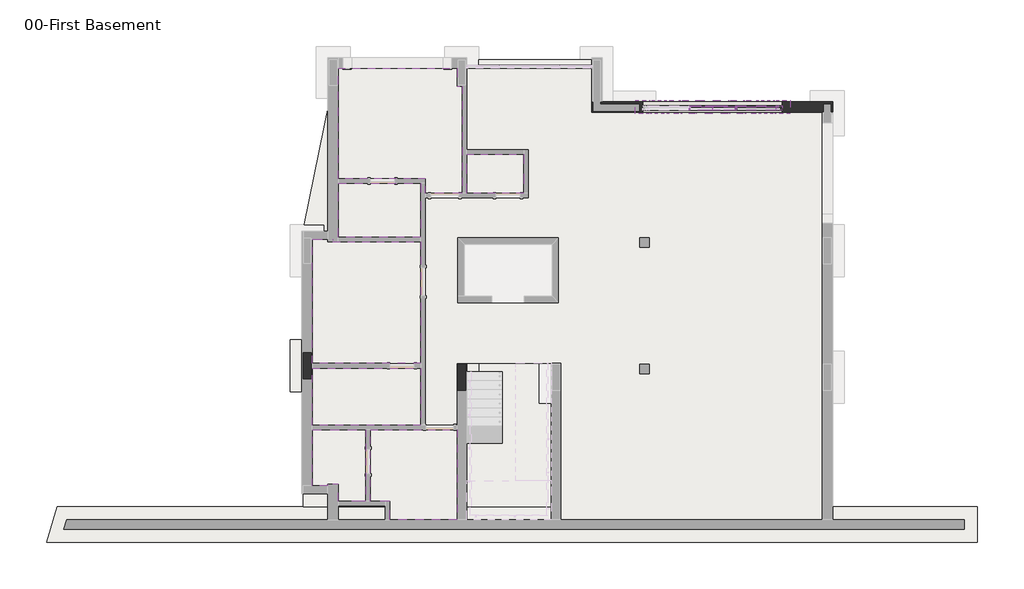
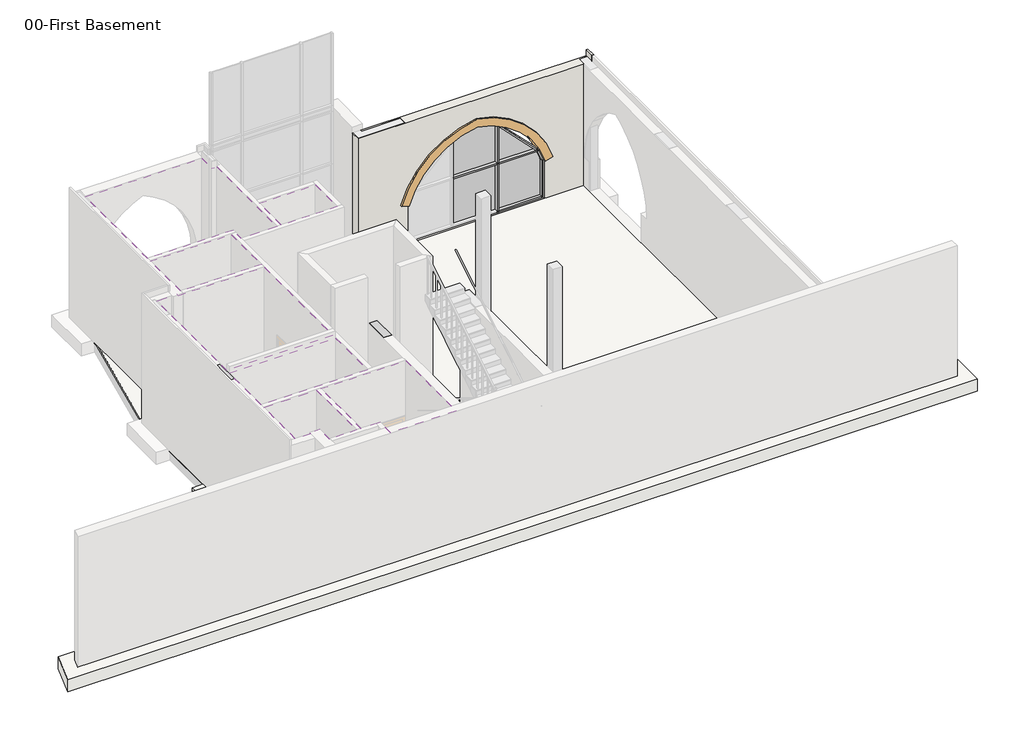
# One storey, part 3 of 5: 11 slabs, 10 members, 7 coverings, 4 plates, 3 beams, 2 columns, 1 door, 1 footing, 1 wall.
"""IFC4 building model written with IfcOpenShell, lengths in millimetres."""

from ifc_helpers import new_model, si_unit, frame, origin, place, context, project, spatial, polyline, circle_curve, outline, extrude, faceted_brep, transform, mapped, element, save
from ifc_brep_helpers import plane_surface, revolved_surface, advanced_brep
from components import etc_door_opening_with_arch_etc_door_opening_with_arch_b524fb75, rectangular_mullion_50_x_150mm_8dc91bbf, rectangular_mullion_50_x_150mm_4ea3cc32, rectangular_mullion_50_x_150mm_096bd82a, rectangular_mullion_50_x_150mm_1d3abd5c, rectangular_mullion_50_x_150mm_a7b7ccc9, rectangular_mullion_50_x_150mm_107027ef, rectangular_mullion_50_x_150mm_c8c9eab7, rectangular_mullion_50_x_150mm_af558dda, rectangular_mullion_50_x_150mm_6aa79e23, rectangular_mullion_50_x_150mm_418b3fc4, system_panel_glazed_629092f2, system_panel_glazed_8a8beb79, system_panel_glazed_7a5e4d7d, system_panel_glazed_f3bbe348

model = new_model("IFC4")

# Units and contexts
model_context = context("Model", 3, world=origin())
ifc_project = project(units=[si_unit("LENGTHUNIT", "METRE", prefix="MILLI")], contexts=[model_context])

# Site, building, storey
site = spatial("IfcSite", under=ifc_project)
building = spatial("IfcBuilding", under=site)
storey = spatial("IfcBuildingStorey", under=building, Name="00-First Basement", Elevation=-4350.0)

# Beams
placement = place(None, origin())
element("IfcBeam", 1, ObjectType="M_Concrete-Rectangular Beam : 200 x 400mm", at=placement, inside=storey, context=model_context, shape_type="SweptSolid", body=[
    extrude(outline(polyline([(-14055.5689025, -4718.0271687), (-13855.5689025, -4718.0271687), (-13855.5689025, -8262.9805769), (-14055.5689025, -8262.9805769), (-14055.5689025, -4718.0271687)])), frame((0.0, 0.0, -4750.0), z_axis=(0.0, 0.0, 1.0), x_axis=(1.0, 0.0, 0.0)), (0.0, 0.0, 1.0), 300.0),
])
element("IfcBeam", 2, ObjectType="M_Concrete-Rectangular Beam : 200 x 400mm", at=placement, inside=storey, context=model_context, shape_type="SweptSolid", body=[
    extrude(outline(polyline([(-9290.0580776, -5066.5009541), (-9090.0580776, -5066.5009541), (-9090.0580776, -8262.9805769), (-9290.0580776, -8262.9805769), (-9290.0580776, -5066.5009541)])), frame((0.0, 0.0, -4750.0), z_axis=(0.0, 0.0, 1.0), x_axis=(1.0, 0.0, 0.0)), (0.0, 0.0, 1.0), 300.0),
])
element("IfcBeam", 3, ObjectType="M_Concrete-Rectangular Beam : 200 x 400mm", at=placement, inside=storey, context=model_context, shape_type="SweptSolid", body=[
    extrude(outline(polyline([(-13430.5689025, -4116.5009541), (-13430.5689025, -3916.5009541), (-9715.0580776, -3916.5009541), (-9715.0580776, -4116.5009541), (-13430.5689025, -4116.5009541)])), frame((0.0, 0.0, -4750.0), z_axis=(0.0, 0.0, 1.0), x_axis=(1.0, 0.0, 0.0)), (0.0, 0.0, 1.0), 300.0),
])

# Columns
element("IfcColumn", 4, ObjectType="M_Concrete-Rectangular-Column : 250 x 800mm", at=placement, inside=storey, context=model_context, shape_type="SweptSolid", body=[
    extrude(outline(polyline([(-13830.5689025, -3518.0271687), (-13830.5689025, -4318.0271687), (-14080.5689025, -4318.0271687), (-14080.5689025, -3518.0271687), (-13830.5689025, -3518.0271687)])), frame((0.0, 0.0, -4350.0), z_axis=(0.0, 0.0, 1.0), x_axis=(1.0, 0.0, 0.0)), (0.0, 0.0, 1.0), 4150.0),
])
element("IfcColumn", 5, ObjectType="M_Concrete-Rectangular-Column : 250 x 800mm", at=placement, inside=storey, context=model_context, shape_type="SweptSolid", body=[
    extrude(outline(polyline([(-9065.0580776, -3866.5009541), (-9065.0580776, -4666.5009541), (-9315.0580776, -4666.5009541), (-9315.0580776, -3866.5009541), (-9065.0580776, -3866.5009541)])), frame((0.0, 0.0, -4350.0), z_axis=(0.0, 0.0, 1.0), x_axis=(1.0, 0.0, 0.0)), (0.0, 0.0, 1.0), 4150.0),
])

# Coverings
element("IfcCovering", 6, ObjectType="Plain 2cm", at=placement, inside=storey, context=model_context, shape_type="SweptSolid", body=[
    extrude(outline(polyline([(-10453.314163, -3847.1156522), (-13810.5689025, -3847.1156522), (-13810.5689025, -16.1034696), (-13170.5689025, -16.1034696), (-13170.5689025, -86.1034696), (-10453.314163, -86.1034696), (-10453.314163, -3847.1156522)])), frame((0.0, 0.0, -220.0), z_axis=(0.0, 0.0, 1.0), x_axis=(1.0, 0.0, 0.0)), (0.0, 0.0, 1.0), 20.0),
])
element("IfcCovering", 7, ObjectType="Plain 2cm", at=placement, inside=storey, context=model_context, shape_type="SweptSolid", body=[
    extrude(outline(polyline([(-10453.314163, 53.8965304), (-13010.5689025, 53.8965304), (-13010.5689025, 1713.8965304), (-10453.314163, 1713.8965304), (-10453.314163, 53.8965304)])), frame((0.0, 0.0, -220.0), z_axis=(0.0, 0.0, 1.0), x_axis=(1.0, 0.0, 0.0)), (0.0, 0.0, 1.0), 20.0),
])
element("IfcCovering", 8, ObjectType="Plain 2cm", at=placement, inside=storey, context=model_context, shape_type="SweptSolid", body=[
    extrude(outline(polyline([(-10453.314163, -5746.1034696), (-13810.5689025, -5746.1034696), (-13810.5689025, -3987.1156522), (-10453.314163, -3987.1156522), (-10453.314163, -5746.1034696)])), frame((0.0, 0.0, -220.0), z_axis=(0.0, 0.0, 1.0), x_axis=(1.0, 0.0, 0.0)), (0.0, 0.0, 1.0), 20.0),
])
element("IfcCovering", 9, ObjectType="Plain 2cm", at=placement, inside=storey, context=model_context, shape_type="SweptSolid", body=[
    extrude(outline(polyline([(-13810.5689025, -7616.5009541), (-13810.5689025, -5886.1034696), (-12150.5689025, -5886.1034696), (-12150.5689025, -8096.5009541), (-13010.5689025, -8096.5009541), (-13010.5689025, -7566.5009541), (-13330.5689025, -7566.5009541), (-13330.5689025, -7616.5009541), (-13810.5689025, -7616.5009541)])), frame((0.0, 0.0, -220.0), z_axis=(0.0, 0.0, 1.0), x_axis=(1.0, 0.0, 0.0)), (0.0, 0.0, 1.0), 20.0),
])
element("IfcCovering", 10, ObjectType="Plain 2cm", at=placement, inside=storey, context=model_context, shape_type="SweptSolid", body=[
    extrude(outline(polyline([(-13010.5689025, 5263.8965304), (-9335.0580776, 5263.8965304), (-9335.0580776, 4713.8965304), (-9185.0580776, 4713.8965304), (-9185.0580776, 1404.1261566), (-10313.314163, 1404.1261566), (-10313.314163, 1853.8965304), (-13010.5689025, 1853.8965304), (-13010.5689025, 5263.8965304)])), frame((0.0, 0.0, -220.0), z_axis=(0.0, 0.0, 1.0), x_axis=(1.0, 0.0, 0.0)), (0.0, 0.0, 1.0), 20.0),
])
element("IfcCovering", 11, ObjectType="Plain 2cm", at=placement, inside=storey, context=model_context, shape_type="SweptSolid", body=[
    extrude(outline(polyline([(-7283.314163, 1404.1261566), (-9045.0580776, 1404.1261566), (-9045.0580776, 2614.3416604), (-7283.314163, 2614.3416604), (-7283.314163, 1404.1261566)])), frame((0.0, 0.0, -220.0), z_axis=(0.0, 0.0, 1.0), x_axis=(1.0, 0.0, 0.0)), (0.0, 0.0, 1.0), 20.0),
])
element("IfcCovering", 12, ObjectType="Plain 2cm", at=placement, inside=storey, context=model_context, shape_type="SweptSolid", body=[
    extrude(outline(polyline([(-12010.5689025, -5886.1034696), (-9335.0580776, -5886.1034696), (-9335.0580776, -8662.9805769), (-11410.5689025, -8662.9805769), (-11410.5689025, -8096.5009541), (-12010.5689025, -8096.5009541), (-12010.5689025, -5886.1034696)])), frame((0.0, 0.0, -220.0), z_axis=(0.0, 0.0, 1.0), x_axis=(1.0, 0.0, 0.0)), (0.0, 0.0, 1.0), 20.0),
])

# Door
etc_door_opening_with_arch_etc_door_opening_with_arch_shape = etc_door_opening_with_arch_etc_door_opening_with_arch_b524fb75(model_context)
element("IfcDoor", 13, ObjectType="ETC_Door Opening with Arch : ETC_Door Opening with Arch", at=placement, inside=storey, context=model_context, shape_type="MappedRepresentation", body=[
    mapped(etc_door_opening_with_arch_etc_door_opening_with_arch_shape, transform((-1450.6988602, 4065.718803, -4250.0), x_axis=(-1.0, 0.0, 0.0), y_axis=(0.0, -1.0, 0.0), z_axis=(0.0, 0.0, 1.0))),
])

# Footing
element("IfcFooting", 14, ObjectType="Bearing Footing - 1100 x 400", at=placement, inside=storey, context=model_context, shape_type="Brep", body=[
    faceted_brep([(6720.9943715, -9362.9805769, -4350.0), (6720.9943715, -9362.9805769, -4750.0), (6720.9943715, -8262.9805769, -4750.0), (6720.9943715, -8262.9805769, -4350.0), (2206.4825148, -8262.9805769, -4350.0), (-14080.5689025, -8262.9805769, -4350.0), (-21680.0984005, -8262.9805769, -4350.0), (-22005.6462182, -9362.9805769, -4350.0), (-22005.6462182, -9362.9805769, -4750.0), (-21680.0984005, -8262.9805769, -4750.0), (-14055.5689025, -8262.9805769, -4750.0), (-13855.5689025, -8262.9805769, -4750.0), (-9290.0580776, -8262.9805769, -4750.0), (-9090.0580776, -8262.9805769, -4750.0), (-6382.8802351, -8262.9805769, -4750.0), (-6182.8802351, -8262.9805769, -4750.0), (-3650.6988602, -8262.9805769, -4750.0), (-3450.6988602, -8262.9805769, -4750.0), (1981.4825148, -8262.9805769, -4750.0), (2181.4825148, -8262.9805769, -4750.0)], [[[0, 1, 2, 3]], [[0, 3, 4, 5, 6, 7]], [[1, 0, 7, 8]], [[2, 1, 8, 9, 10, 11, 12, 13, 14, 15, 16, 17, 18, 19]], [[3, 2, 19, 18, 17, 16, 15, 14, 13, 12, 11, 10, 9, 6, 5, 4]], [[7, 6, 9, 8]]]),
])

# Members
rectangular_mullion_50_x_150mm_shape = rectangular_mullion_50_x_150mm_8dc91bbf(model_context)
element("IfcMember", 15, ObjectType="Rectangular Mullion : 50 x 150mm", at=placement, inside=storey, context=model_context, shape_type="MappedRepresentation", body=[
    mapped(rectangular_mullion_50_x_150mm_shape, transform((-709.0321935, 4036.536195, -4250.0), x_axis=(0.0, 0.0, -1.0), y_axis=(0.0, -1.0, 0.0), z_axis=(-1.0, 0.0, 0.0))),
])
rectangular_mullion_50_x_150mm_2_shape = rectangular_mullion_50_x_150mm_4ea3cc32(model_context)
element("IfcMember", 16, ObjectType="Rectangular Mullion : 50 x 150mm", at=placement, inside=storey, context=model_context, shape_type="MappedRepresentation", body=[
    mapped(rectangular_mullion_50_x_150mm_2_shape, transform((-759.0321935, 4036.536195, -2621.0268991), x_axis=(0.0, 0.0, 1.0), y_axis=(0.0, -1.0, 0.0), z_axis=(1.0, 0.0, 0.0))),
])
rectangular_mullion_50_x_150mm_3_shape = rectangular_mullion_50_x_150mm_096bd82a(model_context)
element("IfcMember", 17, ObjectType="Rectangular Mullion : 50 x 150mm", at=placement, inside=storey, context=model_context, shape_type="MappedRepresentation", body=[
    mapped(rectangular_mullion_50_x_150mm_3_shape, transform((-734.0321935, 4036.536195, -4250.0), x_axis=(1.0, 0.0, 0.0), y_axis=(0.0, -1.0, 0.0), z_axis=(0.0, 0.0, -1.0))),
])
rectangular_mullion_50_x_150mm_4_shape = rectangular_mullion_50_x_150mm_1d3abd5c(model_context)
element("IfcMember", 18, ObjectType="Rectangular Mullion : 50 x 150mm", at=placement, inside=storey, context=model_context, shape_type="MappedRepresentation", body=[
    mapped(rectangular_mullion_50_x_150mm_4_shape, transform((-734.0321935, 4036.536195, -2621.0268991), x_axis=(1.0, 0.0, 0.0), y_axis=(0.0, -1.0, 0.0), z_axis=(0.0, 0.0, -1.0))),
])
rectangular_mullion_50_x_150mm_5_shape = rectangular_mullion_50_x_150mm_a7b7ccc9(model_context)
element("IfcMember", 19, ObjectType="Rectangular Mullion : 50 x 150mm", at=placement, inside=storey, context=model_context, shape_type="MappedRepresentation", body=[
    mapped(rectangular_mullion_50_x_150mm_5_shape, transform((563.1219249, 4036.536195, -2621.0268991), x_axis=(0.0, 0.0, 1.0), y_axis=(0.0, -1.0, 0.0), z_axis=(1.0, 0.0, 0.0))),
])
rectangular_mullion_50_x_150mm_6_shape = rectangular_mullion_50_x_150mm_107027ef(model_context)
element("IfcMember", 20, ObjectType="Rectangular Mullion : 50 x 150mm", at=placement, inside=storey, context=model_context, shape_type="MappedRepresentation", body=[
    mapped(rectangular_mullion_50_x_150mm_6_shape, transform((699.3011398, 4036.536195, -2982.2809039), x_axis=(0.9584718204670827, 0.0, 0.2851872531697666), y_axis=(0.0, -1.0, 0.0), z_axis=(0.2851872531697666, 0.0, -0.9584718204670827))),
])
rectangular_mullion_50_x_150mm_7_shape = rectangular_mullion_50_x_150mm_c8c9eab7(model_context)
element("IfcMember", 21, ObjectType="Rectangular Mullion : 50 x 150mm", at=placement, inside=storey, context=model_context, shape_type="MappedRepresentation", body=[
    mapped(rectangular_mullion_50_x_150mm_7_shape, transform((-1450.6988602, 4036.536195, -1082.2809039), x_axis=(-0.16514146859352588, 0.0, 0.9862698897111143), y_axis=(0.0, -1.0, 0.0), z_axis=(0.9862698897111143, 0.0, 0.16514146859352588))),
])
rectangular_mullion_50_x_150mm_8_shape = rectangular_mullion_50_x_150mm_af558dda(model_context)
element("IfcMember", 22, ObjectType="Rectangular Mullion : 50 x 150mm", at=placement, inside=storey, context=model_context, shape_type="MappedRepresentation", body=[
    mapped(rectangular_mullion_50_x_150mm_8_shape, transform((-734.0321935, 4036.536195, -1307.8784269), x_axis=(0.42958491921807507, 0.0, 0.9030264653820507), y_axis=(0.0, -1.0, 0.0), z_axis=(0.9030264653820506, 0.0, -0.429584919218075))),
])
rectangular_mullion_50_x_150mm_9_shape = rectangular_mullion_50_x_150mm_6aa79e23(model_context)
element("IfcMember", 23, ObjectType="Rectangular Mullion : 50 x 150mm", at=placement, inside=storey, context=model_context, shape_type="MappedRepresentation", body=[
    mapped(rectangular_mullion_50_x_150mm_9_shape, transform((563.1219249, 4036.536195, -2621.0268991), x_axis=(0.9082229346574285, 0.0, 0.41848667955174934), y_axis=(0.0, -1.0, 0.0), z_axis=(0.41848667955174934, 0.0, -0.9082229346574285))),
])
rectangular_mullion_50_x_150mm_10_shape = rectangular_mullion_50_x_150mm_418b3fc4(model_context)
element("IfcMember", 24, ObjectType="Rectangular Mullion : 50 x 150mm", at=placement, inside=storey, context=model_context, shape_type="MappedRepresentation", body=[
    mapped(rectangular_mullion_50_x_150mm_10_shape, transform((699.3011398, 4036.536195, -4250.0), x_axis=(1.0, 0.0, 0.0), y_axis=(0.0, -1.0, 0.0), z_axis=(0.0, 0.0, -1.0))),
])

# Plates
system_panel_glazed_shape = system_panel_glazed_629092f2(model_context)
element("IfcPlate", 25, ObjectType="System Panel : Glazed", at=placement, inside=storey, context=model_context, shape_type="MappedRepresentation", body=[
    mapped(system_panel_glazed_shape, transform((-1450.6988602, 4036.536195, -4200.0), x_axis=(1.0, 0.0, 0.0), y_axis=(0.0, 1.0, 0.0), z_axis=(0.0, 0.0, 1.0))),
])
system_panel_glazed_2_shape = system_panel_glazed_8a8beb79(model_context)
element("IfcPlate", 26, ObjectType="System Panel : Glazed", at=placement, inside=storey, context=model_context, shape_type="MappedRepresentation", body=[
    mapped(system_panel_glazed_2_shape, transform((-29.8655268, 4036.536195, -4200.0), x_axis=(1.0, 0.0, 0.0), y_axis=(0.0, 1.0, 0.0), z_axis=(0.0, 0.0, 1.0))),
])
system_panel_glazed_3_shape = system_panel_glazed_7a5e4d7d(model_context)
element("IfcPlate", 27, ObjectType="System Panel : Glazed", at=placement, inside=storey, context=model_context, shape_type="MappedRepresentation", body=[
    mapped(system_panel_glazed_3_shape, transform((-1450.6988602, 4036.536195, -2596.0268991), x_axis=(1.0, 0.0, 0.0), y_axis=(0.0, 1.0, 0.0), z_axis=(0.0, 0.0, 1.0))),
])
system_panel_glazed_4_shape = system_panel_glazed_f3bbe348(model_context)
element("IfcPlate", 28, ObjectType="System Panel : Glazed", at=placement, inside=storey, context=model_context, shape_type="MappedRepresentation", body=[
    mapped(system_panel_glazed_4_shape, transform((-106.5080508, 4036.536195, -2596.0268991), x_axis=(1.0, 0.0, 0.0), y_axis=(0.0, 1.0, 0.0), z_axis=(0.0, 0.0, 1.0))),
])

# Slabs
element("IfcSlab", 29, ObjectType="Floor-Concrete 100mm", at=placement, inside=storey, context=model_context, shape_type="Brep", body=[
    faceted_brep([(-4957.8802351, 5533.8965304, -4450.0), (-4957.8802351, 4176.127499, -4450.0), (1556.4825148, 4176.127499, -4450.0), (1556.4825148, 4151.127499, -4450.0), (1556.4825148, 3951.127499, -4450.0), (1556.4825148, 3176.127499, -4450.0), (1981.4825148, 3176.127499, -4450.0), (2181.4825148, 3176.127499, -4450.0), (2206.4825148, 3176.127499, -4450.0), (2206.4825148, 433.8965304, -4450.0), (2181.4825148, 433.8965304, -4450.0), (1981.4825148, 433.8965304, -4450.0), (1556.4825148, 433.8965304, -4450.0), (1556.4825148, -16.1034696, -4450.0), (1556.4825148, -216.1034696, -4450.0), (1556.4825148, -1166.1034696, -4450.0), (1981.4825148, -1166.1034696, -4450.0), (2181.4825148, -1166.1034696, -4450.0), (2206.4825148, -1166.1034696, -4450.0), (2206.4825148, -3466.5009541, -4450.0), (2181.4825148, -3466.5009541, -4450.0), (1981.4825148, -3466.5009541, -4450.0), (1556.4825148, -3466.5009541, -4450.0), (1556.4825148, -3916.5009541, -4450.0), (1556.4825148, -4116.5009541, -4450.0), (1556.4825148, -5066.5009541, -4450.0), (1981.4825148, -5066.5009541, -4450.0), (2181.4825148, -5066.5009541, -4450.0), (2206.4825148, -5066.5009541, -4450.0), (2206.4825148, -8262.9805769, -4450.0), (2181.4825148, -8262.9805769, -4450.0), (1981.4825148, -8262.9805769, -4450.0), (-3450.6988602, -8262.9805769, -4450.0), (-3650.6988602, -8262.9805769, -4450.0), (-6182.8802351, -8262.9805769, -4450.0), (-6382.8802351, -8262.9805769, -4450.0), (-9090.0580776, -8262.9805769, -4450.0), (-9290.0580776, -8262.9805769, -4450.0), (-13855.5689025, -8262.9805769, -4450.0), (-14055.5689025, -8262.9805769, -4450.0), (-14080.5689025, -8262.9805769, -4450.0), (-14080.5689025, -4718.0271687, -4450.0), (-14055.5689025, -4718.0271687, -4450.0), (-13855.5689025, -4718.0271687, -4450.0), (-13430.5689025, -4718.0271687, -4450.0), (-13430.5689025, -4116.5009541, -4450.0), (-13430.5689025, -3916.5009541, -4450.0), (-13430.5689025, -3118.0271687, -4450.0), (-13855.5689025, -3118.0271687, -4450.0), (-14055.5689025, -3118.0271687, -4450.0), (-14080.5689025, -3118.0271687, -4450.0), (-14080.5689025, -1166.1034696, -4450.0), (-14055.5689025, -1166.1034696, -4450.0), (-13855.5689025, -1166.1034696, -4450.0), (-13430.5689025, -1166.1034696, -4450.0), (-13430.5689025, -216.1034696, -4450.0), (-13430.5689025, -16.1034696, -4450.0), (-13430.5689025, 433.8965304, -4450.0), (-13853.4825203, 433.8965304, -4450.0), (-14057.6552846, 433.8965304, -4450.0), (-13280.5689025, 4218.3558946, -4450.0), (-13280.5689025, 4333.8965304, -4450.0), (-13256.8442311, 4333.8965304, -4450.0), (-13052.6714668, 4333.8965304, -4450.0), (-12630.5689025, 4333.8965304, -4450.0), (-12630.5689025, 5033.8965304, -4450.0), (-12630.5689025, 5233.8965304, -4450.0), (-12630.5689025, 5533.8965304, -4450.0), (-9715.0580776, 5533.8965304, -4450.0), (-9715.0580776, 5233.8965304, -4450.0), (-9715.0580776, 5033.8965304, -4450.0), (-9715.0580776, 4333.8965304, -4450.0), (-9290.0580776, 4333.8965304, -4450.0), (-9090.0580776, 4333.8965304, -4450.0), (-8665.0580776, 4333.8965304, -4450.0), (-8665.0580776, 5033.8965304, -4450.0), (-8665.0580776, 5233.8965304, -4450.0), (-8665.0580776, 5533.8965304, -4450.0), (-8665.0580776, -3466.5009541, -4450.0), (-9090.0580776, -3466.5009541, -4450.0), (-9290.0580776, -3466.5009541, -4450.0), (-9715.0580776, -3466.5009541, -4450.0), (-9715.0580776, -3916.5009541, -4450.0), (-9715.0580776, -4116.5009541, -4450.0), (-9715.0580776, -5066.5009541, -4450.0), (-9290.0580776, -5066.5009541, -4450.0), (-9090.0580776, -5066.5009541, -4450.0), (-8665.0580776, -5066.5009541, -4450.0), (-8665.0580776, -4116.5009541, -4450.0), (-8665.0580776, -3916.5009541, -4450.0), (-5757.8802351, -3466.5009541, -4450.0), (-6182.8802351, -3466.5009541, -4450.0), (-6382.8802351, -3466.5009541, -4450.0), (-6807.8802351, -3466.5009541, -4450.0), (-6807.8802351, -3916.5009541, -4450.0), (-6807.8802351, -4116.5009541, -4450.0), (-6807.8802351, -5066.5009541, -4450.0), (-6382.8802351, -5066.5009541, -4450.0), (-6182.8802351, -5066.5009541, -4450.0), (-5757.8802351, -5066.5009541, -4450.0), (-5757.8802351, -4116.5009541, -4450.0), (-5757.8802351, -3916.5009541, -4450.0), (-3000.6988602, -3466.5009541, -4450.0), (-3450.6988602, -3466.5009541, -4450.0), (-3650.6988602, -3466.5009541, -4450.0), (-4100.6988602, -3466.5009541, -4450.0), (-4100.6988602, -3916.5009541, -4450.0), (-4100.6988602, -4116.5009541, -4450.0), (-4100.6988602, -4566.5009541, -4450.0), (-3650.6988602, -4566.5009541, -4450.0), (-3450.6988602, -4566.5009541, -4450.0), (-3000.6988602, -4566.5009541, -4450.0), (-3000.6988602, -4116.5009541, -4450.0), (-3000.6988602, -3916.5009541, -4450.0), (-5807.8802351, -2366.1034696, -4450.0), (-5807.8802351, -216.1034696, -4450.0), (-5807.8802351, -16.1034696, -4450.0), (-5807.8802351, 433.8965304, -4450.0), (-9090.0580776, 433.8965304, -4450.0), (-9290.0580776, 433.8965304, -4450.0), (-9715.0580776, 433.8965304, -4450.0), (-9715.0580776, -16.1034696, -4450.0), (-9715.0580776, -216.1034696, -4450.0), (-9715.0580776, -2366.1034696, -4450.0), (-9290.0580776, -2366.1034696, -4450.0), (-9090.0580776, -2366.1034696, -4450.0), (-6382.8802351, -2366.1034696, -4450.0), (-6182.8802351, -2366.1034696, -4450.0), (-3000.6988602, 433.8965304, -4450.0), (-3450.6988602, 433.8965304, -4450.0), (-3650.6988602, 433.8965304, -4450.0), (-4100.6988602, 433.8965304, -4450.0), (-4100.6988602, -16.1034696, -4450.0), (-4100.6988602, -216.1034696, -4450.0), (-4100.6988602, -666.1034696, -4450.0), (-3650.6988602, -666.1034696, -4450.0), (-3450.6988602, -666.1034696, -4450.0), (-3000.6988602, -666.1034696, -4450.0), (-3000.6988602, -216.1034696, -4450.0), (-3000.6988602, -16.1034696, -4450.0), (-4957.8802351, 4176.127499, -4350.0), (-4957.8802351, 5533.8965304, -4350.0), (-8665.0580776, 5533.8965304, -4350.0), (-8665.0580776, 4333.8965304, -4350.0), (-9715.0580776, 4333.8965304, -4350.0), (-9715.0580776, 5533.8965304, -4350.0), (-12630.5689025, 5533.8965304, -4350.0), (-12630.5689025, 4333.8965304, -4350.0), (-13280.5689025, 4333.8965304, -4350.0), (-13280.5689025, 4218.3558946, -4350.0), (-14057.6552846, 433.8965304, -4350.0), (-13430.5689025, 433.8965304, -4350.0), (-13430.5689025, -1166.1034696, -4350.0), (-14080.5689025, -1166.1034696, -4350.0), (-14080.5689025, -3118.0271687, -4350.0), (-13430.5689025, -3118.0271687, -4350.0), (-13430.5689025, -4718.0271687, -4350.0), (-14080.5689025, -4718.0271687, -4350.0), (-14080.5689025, -8262.9805769, -4350.0), (2206.4825148, -8262.9805769, -4350.0), (2206.4825148, -5066.5009541, -4350.0), (1556.4825148, -5066.5009541, -4350.0), (1556.4825148, -3466.5009541, -4350.0), (2206.4825148, -3466.5009541, -4350.0), (2206.4825148, -1166.1034696, -4350.0), (1556.4825148, -1166.1034696, -4350.0), (1556.4825148, 433.8965304, -4350.0), (2206.4825148, 433.8965304, -4350.0), (2206.4825148, 3176.127499, -4350.0), (1556.4825148, 3176.127499, -4350.0), (1556.4825148, 4176.127499, -4350.0), (-9715.0580776, -3466.5009541, -4350.0), (-8665.0580776, -3466.5009541, -4350.0), (-8665.0580776, -5066.5009541, -4350.0), (-9715.0580776, -5066.5009541, -4350.0), (-6807.8802351, -3466.5009541, -4350.0), (-5757.8802351, -3466.5009541, -4350.0), (-5757.8802351, -5066.5009541, -4350.0), (-6807.8802351, -5066.5009541, -4350.0), (-4100.6988602, -3466.5009541, -4350.0), (-3000.6988602, -3466.5009541, -4350.0), (-3000.6988602, -4566.5009541, -4350.0), (-4100.6988602, -4566.5009541, -4350.0), (-5807.8802351, 433.8965304, -4350.0), (-5807.8802351, -2366.1034696, -4350.0), (-9715.0580776, -2366.1034696, -4350.0), (-9715.0580776, 433.8965304, -4350.0), (-4100.6988602, 433.8965304, -4350.0), (-3000.6988602, 433.8965304, -4350.0), (-3000.6988602, -666.1034696, -4350.0), (-4100.6988602, -666.1034696, -4350.0)], [[[0, 1, 2, 3, 4, 5, 6, 7, 8, 9, 10, 11, 12, 13, 14, 15, 16, 17, 18, 19, 20, 21, 22, 23, 24, 25, 26, 27, 28, 29, 30, 31, 32, 33, 34, 35, 36, 37, 38, 39, 40, 41, 42, 43, 44, 45, 46, 47, 48, 49, 50, 51, 52, 53, 54, 55, 56, 57, 58, 59, 60, 61, 62, 63, 64, 65, 66, 67, 68, 69, 70, 71, 72, 73, 74, 75, 76, 77], [78, 79, 80, 81, 82, 83, 84, 85, 86, 87, 88, 89], [90, 91, 92, 93, 94, 95, 96, 97, 98, 99, 100, 101], [102, 103, 104, 105, 106, 107, 108, 109, 110, 111, 112, 113], [114, 115, 116, 117, 118, 119, 120, 121, 122, 123, 124, 125, 126, 127], [128, 129, 130, 131, 132, 133, 134, 135, 136, 137, 138, 139]], [[140, 141, 142, 143, 144, 145, 146, 147, 148, 149, 150, 151, 152, 153, 154, 155, 156, 157, 158, 159, 160, 161, 162, 163, 164, 165, 166, 167, 168, 169, 170], [171, 172, 173, 174], [175, 176, 177, 178], [179, 180, 181, 182], [183, 184, 185, 186], [187, 188, 189, 190]], [[61, 60, 149, 148]], [[141, 0, 77, 142]], [[145, 68, 67, 146]], [[1, 0, 141, 140]], [[1, 140, 170, 2]], [[8, 168, 167, 9]], [[18, 164, 163, 19]], [[28, 160, 159, 29]], [[153, 51, 50, 154]], [[157, 41, 40, 158]], [[169, 5, 4, 3, 2, 170]], [[5, 169, 168, 8, 7, 6]], [[144, 71, 70, 69, 68, 145]], [[71, 144, 143, 74, 73, 72]], [[74, 143, 142, 77, 76, 75]], [[147, 64, 63, 62, 61, 148]], [[64, 147, 146, 67, 66, 65]], [[57, 151, 150, 59, 58]], [[152, 54, 53, 52, 51, 153]], [[54, 152, 151, 57, 56, 55]], [[47, 155, 154, 50, 49, 48]], [[156, 44, 43, 42, 41, 157]], [[155, 47, 46, 45, 44, 156]], [[78, 172, 171, 81, 80, 79]], [[81, 171, 174, 84, 83, 82]], [[84, 174, 173, 87, 86, 85]], [[172, 78, 89, 88, 87, 173]], [[90, 176, 175, 93, 92, 91]], [[93, 175, 178, 96, 95, 94]], [[96, 178, 177, 99, 98, 97]], [[176, 90, 101, 100, 99, 177]], [[102, 180, 179, 105, 104, 103]], [[105, 179, 182, 108, 107, 106]], [[108, 182, 181, 111, 110, 109]], [[180, 102, 113, 112, 111, 181]], [[183, 117, 116, 115, 114, 184]], [[184, 114, 127, 126, 125, 124, 123, 185]], [[185, 123, 122, 121, 120, 186]], [[117, 183, 186, 120, 119, 118]], [[128, 188, 187, 131, 130, 129]], [[131, 187, 190, 134, 133, 132]], [[134, 190, 189, 137, 136, 135]], [[188, 128, 139, 138, 137, 189]], [[166, 12, 11, 10, 9, 167]], [[12, 166, 165, 15, 14, 13]], [[15, 165, 164, 18, 17, 16]], [[162, 22, 21, 20, 19, 163]], [[22, 162, 161, 25, 24, 23]], [[25, 161, 160, 28, 27, 26]], [[40, 39, 38, 37, 36, 35, 34, 33, 32, 31, 30, 29, 159, 158]], [[149, 60, 59, 150]]]),
])
element("IfcSlab", 30, ObjectType="Floor-Tile 100mm", at=placement, inside=storey, context=model_context, shape_type="SweptSolid", body=[
    extrude(outline(polyline([(-13010.5689025, 5263.8965304), (-12876.2352292, 5263.8965304), (-12876.2352292, 5213.8965304), (-12590.8457597, 5213.8965304), (-12590.8457597, 5394.3052264), (-9766.8457597, 5394.3052264), (-9766.8457597, 5213.8965304), (-9481.4562902, 5213.8965304), (-9481.4562902, 5263.8965304), (-9335.0580776, 5263.8965304), (-9335.0580776, 4713.8965304), (-9185.0580776, 4713.8965304), (-9185.0580776, 1404.1261566), (-10313.314163, 1404.1261566), (-10313.314163, 1853.8965304), (-13010.5689025, 1853.8965304), (-13010.5689025, 5263.8965304)])), frame((0.0, 0.0, -4340.0), z_axis=(0.0, 0.0, 1.0), x_axis=(1.0, 0.0, 0.0)), (0.0, 0.0, 1.0), 90.0),
])
element("IfcSlab", 31, ObjectType="Floor-Tile 100mm", at=placement, inside=storey, context=model_context, shape_type="SweptSolid", body=[
    extrude(outline(polyline([(-12015.314163, 1713.8965304), (-12015.314163, 1853.8965304), (-11253.314163, 1853.8965304), (-11253.314163, 1713.8965304), (-10453.314163, 1713.8965304), (-10453.314163, 53.8965304), (-13010.5689025, 53.8965304), (-13010.5689025, 1713.8965304), (-12015.314163, 1713.8965304)])), frame((0.0, 0.0, -4340.0), z_axis=(0.0, 0.0, 1.0), x_axis=(1.0, 0.0, 0.0)), (0.0, 0.0, 1.0), 90.0),
])
element("IfcSlab", 32, ObjectType="Floor-Tile 100mm", at=placement, inside=storey, context=model_context, shape_type="SweptSolid", body=[
    extrude(outline(polyline([(-9045.0580776, 2614.3416604), (-7283.314163, 2614.3416604), (-7283.314163, 1404.1261566), (-7383.314163, 1404.1261566), (-7383.314163, 1264.1261566), (-8145.314163, 1264.1261566), (-8145.314163, 1404.1261566), (-9045.0580776, 1404.1261566), (-9045.0580776, 2614.3416604)])), frame((0.0, 0.0, -4340.0), z_axis=(0.0, 0.0, 1.0), x_axis=(1.0, 0.0, 0.0)), (0.0, 0.0, 1.0), 90.0),
])
element("IfcSlab", 33, ObjectType="Floor-Tile 100mm", at=placement, inside=storey, context=model_context, shape_type="SweptSolid", body=[
    extrude(outline(polyline([(-10453.314163, -86.1034696), (-10453.314163, -886.1034696), (-10333.314163, -886.1034696), (-10333.314163, -1750.1034696), (-10473.314163, -1750.1034696), (-10473.314163, -3847.1156522), (-13810.5689025, -3847.1156522), (-13810.5689025, -16.1034696), (-13350.5689025, -16.1034696), (-13350.5689025, -86.1034696), (-10453.314163, -86.1034696)])), frame((0.0, 0.0, -4340.0), z_axis=(0.0, 0.0, 1.0), x_axis=(1.0, 0.0, 0.0)), (0.0, 0.0, 1.0), 90.0),
])
element("IfcSlab", 34, ObjectType="Floor-Tile 100mm", at=placement, inside=storey, context=model_context, shape_type="SweptSolid", body=[
    extrude(outline(polyline([(-10453.314163, -5746.1034696), (-13810.5689025, -5746.1034696), (-13810.5689025, -3987.1156522), (-11415.314163, -3987.1156522), (-11415.314163, -3847.1156522), (-10653.314163, -3847.1156522), (-10653.314163, -3987.1156522), (-10453.314163, -3987.1156522), (-10453.314163, -5746.1034696)])), frame((0.0, 0.0, -4340.0), z_axis=(0.0, 0.0, 1.0), x_axis=(1.0, 0.0, 0.0)), (0.0, 0.0, 1.0), 90.0),
])
element("IfcSlab", 35, ObjectType="Floor-Tile 100mm", at=placement, inside=storey, context=model_context, shape_type="SweptSolid", body=[
    extrude(outline(polyline([(-12150.5689025, -5886.1034696), (-12150.5689025, -6486.1034696), (-12010.5689025, -6486.1034696), (-12010.5689025, -7248.1034696), (-12150.5689025, -7248.1034696), (-12150.5689025, -8096.5009541), (-13010.5689025, -8096.5009541), (-13010.5689025, -7566.5009541), (-13330.5689025, -7566.5009541), (-13330.5689025, -7616.5009541), (-13810.5689025, -7616.5009541), (-13810.5689025, -5886.1034696), (-12150.5689025, -5886.1034696)])), frame((0.0, 0.0, -4340.0), z_axis=(0.0, 0.0, 1.0), x_axis=(1.0, 0.0, 0.0)), (0.0, 0.0, 1.0), 90.0),
])
element("IfcSlab", 36, ObjectType="Floor-Tile 100mm", at=placement, inside=storey, context=model_context, shape_type="SweptSolid", body=[
    extrude(outline(polyline([(-9335.0580776, -5886.1034696), (-9335.0580776, -8662.9805769), (-11410.5689025, -8662.9805769), (-11410.5689025, -8096.5009541), (-12010.5689025, -8096.5009541), (-12010.5689025, -5886.1034696), (-10299.0580776, -5886.1034696), (-10299.0580776, -5746.1034696), (-9435.0580776, -5746.1034696), (-9435.0580776, -5886.1034696), (-9335.0580776, -5886.1034696)])), frame((0.0, 0.0, -4340.0), z_axis=(0.0, 0.0, 1.0), x_axis=(1.0, 0.0, 0.0)), (0.0, 0.0, 1.0), 90.0),
])
element("IfcSlab", 37, ObjectType="Floor-Tile-Marble 100mm", at=placement, inside=storey, context=model_context, shape_type="SweptSolid", body=[
    extrude(outline(polyline([(1936.4825148, 3906.127499), (1936.4825148, -8662.9805769), (-6137.8802351, -8662.9805769), (-6137.8802351, -3846.5009541), (-9335.0580776, -3846.5009541), (-9335.0580776, -5746.1034696), (-10313.314163, -5746.1034696), (-10313.314163, 1264.1261566), (-7143.314163, 1264.1261566), (-7143.314163, 2754.3416604), (-9045.0580776, 2754.3416604), (-9045.0580776, 5308.8965304), (-5177.8802351, 5308.8965304), (-5177.8802351, 3906.127499), (1936.4825148, 3906.127499)]), holes=[polyline([(-6207.8802351, 33.8965304), (-9315.0580776, 33.8965304), (-9315.0580776, -1966.1034696), (-6207.8802351, -1966.1034696), (-6207.8802351, 33.8965304)])]), frame((0.0, 0.0, -4340.0), z_axis=(0.0, 0.0, 1.0), x_axis=(1.0, 0.0, 0.0)), (0.0, 0.0, 1.0), 90.0),
])
element("IfcSlab", 38, ObjectType="M_Footing-Rectangular : 1050 x 1600 x 400mm", at=placement, inside=storey, context=model_context, shape_type="Brep", body=[
    faceted_brep([(-13430.5689025, -3118.0271687, -4350.0), (-14080.5689025, -3118.0271687, -4350.0), (-14480.5689025, -3118.0271687, -4350.0), (-14480.5689025, -4718.0271687, -4350.0), (-14080.5689025, -4718.0271687, -4350.0), (-13430.5689025, -4718.0271687, -4350.0), (-13430.5689025, -3118.0271687, -4750.0), (-13430.5689025, -3916.5009541, -4750.0), (-13430.5689025, -4116.5009541, -4750.0), (-13430.5689025, -4718.0271687, -4750.0), (-13855.5689025, -4718.0271687, -4750.0), (-14055.5689025, -4718.0271687, -4750.0), (-14480.5689025, -4718.0271687, -4750.0), (-14480.5689025, -3118.0271687, -4750.0), (-14055.5689025, -3118.0271687, -4750.0), (-13855.5689025, -3118.0271687, -4750.0), (-13430.5689025, -3118.0271687, -4450.0), (-13430.5689025, -4718.0271687, -4450.0)], [[[0, 1, 2, 3, 4, 5]], [[6, 7, 8, 9, 10, 11, 12, 13, 14, 15]], [[2, 1, 0, 16, 6, 15, 14, 13]], [[3, 2, 13, 12]], [[5, 4, 3, 12, 11, 10, 9, 17]], [[0, 5, 17, 9, 8, 7, 6, 16]]]),
])
element("IfcSlab", 39, ObjectType="M_Footing-Rectangular : 1050 x 1600 x 400mm", at=placement, inside=storey, context=model_context, shape_type="Brep", body=[
    faceted_brep([(-8665.0580776, -3466.5009541, -4350.0), (-9715.0580776, -3466.5009541, -4350.0), (-9715.0580776, -5066.5009541, -4350.0), (-8665.0580776, -5066.5009541, -4350.0), (-8665.0580776, -3466.5009541, -4750.0), (-8665.0580776, -3916.5009541, -4750.0), (-8665.0580776, -4116.5009541, -4750.0), (-8665.0580776, -5066.5009541, -4750.0), (-9090.0580776, -5066.5009541, -4750.0), (-9290.0580776, -5066.5009541, -4750.0), (-9715.0580776, -5066.5009541, -4750.0), (-9715.0580776, -4116.5009541, -4750.0), (-9715.0580776, -3916.5009541, -4750.0), (-9715.0580776, -3466.5009541, -4750.0), (-9290.0580776, -3466.5009541, -4750.0), (-9090.0580776, -3466.5009541, -4750.0), (-8665.0580776, -3466.5009541, -4450.0), (-9715.0580776, -3466.5009541, -4450.0), (-9715.0580776, -5066.5009541, -4450.0), (-8665.0580776, -5066.5009541, -4450.0)], [[[0, 1, 2, 3]], [[4, 5, 6, 7, 8, 9, 10, 11, 12, 13, 14, 15]], [[1, 0, 16, 4, 15, 14, 13, 17]], [[2, 1, 17, 13, 12, 11, 10, 18]], [[3, 2, 18, 10, 9, 8, 7, 19]], [[0, 3, 19, 7, 6, 5, 4, 16]]]),
])

# Wall
element("IfcWall", 40, ObjectType="Exterior Wall 50+100+50+100 CMU", at=placement, inside=storey, context=model_context, shape_type="AdvancedBrep", body=[
    advanced_brep(
    [(2256.4825148, 3906.127499, -4350.0), (2256.4825148, 3906.127499, 0.0), (2206.4825148, 3906.127499, 0.0), (2206.4825148, 3906.127499, -4350.0), (1956.4825148, 3906.127499, -4350.0), (1956.4825148, 3906.127499, -200.0), (1936.4825148, 3906.127499, -200.0), (-5177.8802351, 3906.127499, -200.0), (-5177.8802351, 3906.127499, -4350.0), (1936.4825148, 3906.127499, -4350.0), (699.3011398, 3906.127499, -4250.0), (-3600.6988602, 3906.127499, -4250.0), (-3600.6988602, 3906.127499, -2982.2809039), (-3600.6988602, 3906.127499, -2974.1809039), (-3838.092971, 3906.127499, -2903.5457814), (-1450.6988602, 3906.127499, -829.1), (936.6952507, 3906.127499, -2903.5457814), (699.3011398, 3906.127499, -2974.1809039), (699.3011398, 3906.127499, -2982.2809039), (2256.4825148, 4226.127499, 0.0), (2256.4825148, 4226.127499, -4350.0), (-4857.8802351, 4226.127499, -4350.0), (-4907.8802351, 4226.127499, -4350.0), (-4907.8802351, 4226.127499, -200.0), (2206.4825148, 4226.127499, -200.0), (2206.4825148, 4226.127499, 0.0), (-3600.6988602, 4226.127499, -4250.0), (699.3011398, 4226.127499, -4250.0), (699.3011398, 4226.127499, -2982.2809039), (699.3011398, 4226.127499, -2974.1809039), (936.6952507, 4226.127499, -2903.5457814), (-1450.6988602, 4226.127499, -829.1), (-3838.092971, 4226.127499, -2903.5457814), (-3600.6988602, 4226.127499, -2974.1809039), (-3600.6988602, 4226.127499, -2982.2809039), (-5177.8802351, 4226.127499, -4350.0), (-5177.8802351, 4226.127499, -200.0), (-5157.8802351, 4226.127499, -200.0), (-5157.8802351, 4226.127499, -4350.0), (2206.4825148, 4176.127499, -4350.0), (1956.4825148, 4176.127499, -4350.0), (-5157.8802351, 3926.127499, -4350.0), (-3700.6988602, 3926.127499, -4350.0), (-3700.6988602, 4176.127499, -4350.0), (-4907.8802351, 4176.127499, -4350.0), (2206.4825148, 4176.127499, -200.0), (1956.4825148, 4176.127499, -200.0), (-4907.8802351, 4176.127499, -200.0), (-3700.6988602, 4176.127499, -200.0), (-3700.6988602, 3926.127499, -200.0), (-5157.8802351, 3926.127499, -200.0), (-3700.6988602, 3926.127499, -2536.4004852), (-3838.092971, 3926.127499, -2903.5457814), (-3700.6988602, 3926.127499, -2944.4265337), (-3700.6988602, 4176.127499, -2944.4265337), (-3700.6988602, 4176.127499, -2536.4004852), (-3838.092971, 4176.127499, -2903.5457814)],
    [
        (0, 1),
        (1, 2),
        (2, 3),
        (3, 0),
        (4, 5),
        (5, 6),
        (6, 7),
        (7, 8),
        (8, 9),
        (9, 4),
        (10, 11),
        (11, 12),
        (12, 13),
        (13, 14),
        (14, 15, circle_curve(frame((-1003.1499209, 3906.127499, -3755.1652299), z_axis=(0.0, 1.0, 0.0), x_axis=(-1.0, 0.0, 0.0)), 2960.0942185)),
        (15, 16, circle_curve(frame((-1898.2477994, 3906.127499, -3755.1652299), z_axis=(0.0, 1.0, 0.0), x_axis=(-1.0, 0.0, 0.0)), 2960.0942185)),
        (16, 17),
        (17, 18),
        (18, 10),
        (19, 20),
        (20, 21),
        (21, 22),
        (22, 23),
        (23, 24),
        (24, 25),
        (25, 19),
        (26, 27),
        (27, 28),
        (28, 29),
        (29, 30),
        (30, 31, circle_curve(frame((-1898.2477994, 4226.127499, -3755.1652299), z_axis=(0.0, -1.0, 0.0), x_axis=(-1.0, 0.0, 0.0)), 2960.0942185)),
        (31, 32, circle_curve(frame((-1003.1499209, 4226.127499, -3755.1652299), z_axis=(0.0, -1.0, 0.0), x_axis=(-1.0, 0.0, 0.0)), 2960.0942185)),
        (32, 33),
        (33, 34),
        (34, 26),
        (35, 36),
        (36, 37),
        (37, 38),
        (38, 35),
        (3, 39),
        (39, 40),
        (40, 4),
        (8, 35),
        (38, 41),
        (41, 42),
        (42, 43),
        (43, 44),
        (44, 22),
        (20, 0),
        (1, 19),
        (25, 2),
        (24, 45),
        (45, 39),
        (40, 46),
        (46, 5),
        (45, 46),
        (23, 47),
        (47, 48),
        (48, 49),
        (49, 50),
        (50, 37),
        (36, 7),
        (50, 41),
        (49, 51),
        (51, 52, circle_curve(frame((-1003.1499209, 3926.127499, -3755.1652299), z_axis=(0.0, -1.0, 0.0), x_axis=(-1.0, 0.0, 0.0)), 2960.0942185)),
        (52, 53),
        (53, 42),
        (53, 54),
        (54, 43),
        (48, 55),
        (55, 51),
        (47, 44),
        (54, 56),
        (56, 55, circle_curve(frame((-1003.1499209, 4176.127499, -3755.1652299), z_axis=(0.0, 1.0, 0.0), x_axis=(-1.0, 0.0, 0.0)), 2960.0942185)),
        (26, 11),
        (10, 27),
        (13, 33),
        (32, 56),
        (52, 14),
        (31, 15),
        (30, 16),
        (29, 17),
    ],
    [
        plane_surface(frame((599.3011398, 3906.127499, -4350.0), z_axis=(0.0, -1.0, 0.0), x_axis=(1.0, 0.0, 0.0))),
        plane_surface(frame((599.3011398, 4226.127499, -4350.0), z_axis=(0.0, 1.0, 0.0), x_axis=(-1.0, 0.0, 0.0))),
        plane_surface(frame((-5032.8802351, 3906.127499, -4350.0), z_axis=(0.0, 0.0, -1.0), x_axis=(0.0, 1.0, 0.0))),
        plane_surface(frame((2096.4825148, 3906.127499, 0.0), z_axis=(0.0, 0.0, 1.0), x_axis=(0.0, 1.0, 0.0))),
        plane_surface(frame((2206.4825148, 3576.127499, 0.0), z_axis=(-1.0, 0.0, 0.0), x_axis=(0.0, 0.0, -1.0))),
        plane_surface(frame((1956.4825148, 4176.127499, 0.0), z_axis=(1.0, 0.0, 0.0), x_axis=(0.0, 0.0, -1.0))),
        plane_surface(frame((2206.4825148, 4176.127499, 0.0), z_axis=(0.0, -1.0, 0.0), x_axis=(0.0, 0.0, -1.0))),
        plane_surface(frame((2256.4825148, -8638.1518178, -4350.0), z_axis=(1.0, 0.0, 0.0), x_axis=(0.0, 1.0, 0.0))),
        plane_surface(frame((-14080.5689025, 183.8965304, -200.0), z_axis=(0.0, 0.0, 1.0), x_axis=(1.0, 0.0, 0.0))),
        plane_surface(frame((-5177.8802351, 5487.7570144, -4350.0), z_axis=(-1.0, 0.0, 0.0), x_axis=(0.0, -1.0, 0.0))),
        plane_surface(frame((-5157.8802351, 5533.8965304, -200.0), z_axis=(1.0, 0.0, 0.0), x_axis=(0.0, 0.0, -1.0))),
        plane_surface(frame((-5157.8802351, 3926.127499, -200.0), z_axis=(0.0, 1.0, 0.0), x_axis=(0.0, 0.0, -1.0))),
        plane_surface(frame((-3700.6988602, 3926.127499, -200.0), z_axis=(-1.0, 0.0, 0.0), x_axis=(0.0, 0.0, -1.0))),
        plane_surface(frame((-3700.6988602, 4176.127499, -200.0), z_axis=(0.0, -1.0, 0.0), x_axis=(0.0, 0.0, -1.0))),
        plane_surface(frame((-4907.8802351, 4176.127499, -200.0), z_axis=(-1.0, 0.0, 0.0), x_axis=(0.0, 0.0, -1.0))),
        plane_surface(frame((699.3011398, 4226.127499, -4250.0), z_axis=(0.0, 0.0, 1.0), x_axis=(0.0, -1.0, 0.0))),
        plane_surface(frame((-3600.6988602, 4226.127499, -2974.1809039), z_axis=(0.28518725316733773, 0.0, 0.9584718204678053), x_axis=(0.0, -1.0, 0.0))),
        revolved_surface(polyline([(-3963.2441393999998, 4226.127499, -3755.1652299), (-3963.2441393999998, 3906.127499, -3755.1652299)]), (-1003.1499209, 3906.127499, -3755.1652299), (0.0, 1.0, 0.0)),
        plane_surface(frame((-3600.6988602, 4226.127499, -4250.0), z_axis=(1.0, 0.0, 0.0), x_axis=(0.0, -1.0, 0.0))),
        revolved_surface(polyline([(-4858.3420179, 4226.127499, -3755.1652299), (-4858.3420179, 3906.127499, -3755.1652299)]), (-1898.2477994, 3906.127499, -3755.1652299), (0.0, 1.0, 0.0)),
        plane_surface(frame((936.6952507, 4226.127499, -2903.5457814), z_axis=(-0.28518725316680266, 0.0, 0.9584718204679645), x_axis=(0.0, -1.0, 0.0))),
        plane_surface(frame((699.3011398, 4226.127499, -2974.1809039), z_axis=(-1.0, 0.0, 0.0), x_axis=(0.0, -1.0, 0.0))),
    ],
    [
        (0, [[1, 2, 3, 4]]),
        (0, [[5, 6, 7, 8, 9, 10], [11, 12, 13, 14, 15, 16, 17, 18, 19]]),
        (1, [[20, 21, 22, 23, 24, 25, 26], [27, 28, 29, 30, 31, 32, 33, 34, 35]]),
        (1, [[36, 37, 38, 39]]),
        (2, [[40, 41, 42, -10, -9, 43, -39, 44, 45, 46, 47, 48, -22, -21, 49, -4]]),
        (3, [[50, -26, 51, -2]]),
        (4, [[-40, -3, -51, -25, 52, 53]]),
        (5, [[-42, 54, 55, -5]]),
        (6, [[-41, -53, 56, -54]]),
        (7, [[-1, -49, -20, -50]]),
        (8, [[-7, -6, -55, -56, -52, -24, 57, 58, 59, 60, 61, -37, 62]]),
        (9, [[-43, -8, -62, -36]]),
        (10, [[63, -44, -38, -61]]),
        (11, [[-63, -60, 64, 65, 66, 67, -45]]),
        (12, [[-67, 68, 69, -46]]),
        (12, [[-64, -59, 70, 71]]),
        (13, [[72, -47, -69, 73, 74, -70, -58]]),
        (14, [[-72, -57, -23, -48]]),
        (15, [[75, -11, 76, -27]]),
        (16, [[77, -33, 78, -73, -68, -66, 79, -14]]),
        (17, [[80, -15, -79, -65, -71, -74, -78, -32]]),
        (18, [[-75, -35, -34, -77, -13, -12]]),
        (19, [[-80, -31, 81, -16]]),
        (20, [[-81, -30, 82, -17]]),
        (21, [[-76, -19, -18, -82, -29, -28]]),
    ],
),
])

save(model, "model.ifc")
